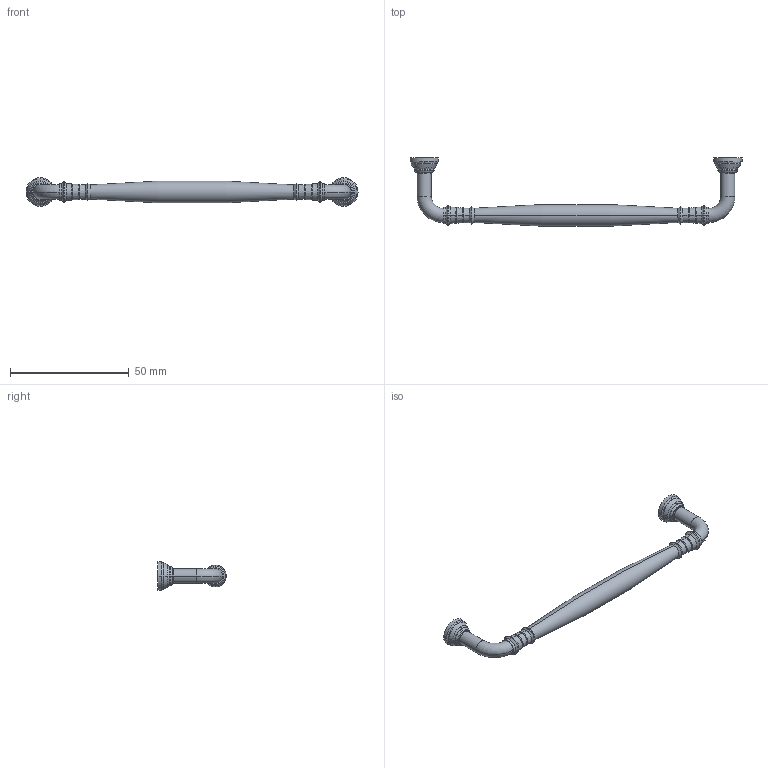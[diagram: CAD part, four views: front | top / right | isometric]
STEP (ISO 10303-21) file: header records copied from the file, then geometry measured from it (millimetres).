
FILE_DESCRIPTION( ( '' ), '1' );
FILE_NAME( 'C:/Documents and Settings/Sachin/Desktop/Sheet 10_1/stp/9112651.stp', '2013-10-22T11:55:56', ( '' ), ( '' ), ' ', ' ', ' ' );
FILE_SCHEMA( ( 'CONFIG_CONTROL_DESIGN' ) );
Length unit declared in the file: millimetre
Products named in the file (1): 1
Bounding box: 140 x 28.81 x 12 mm (x, y, z)
Volume: 7808.1 mm3; surface area: 4652.7 mm2
Topology: 1 solids, 1 shells, 123 faces, 277 edges, 163 vertices
Faces by surface type: torus 62, cone 36, cylinder 16, plane 9
Entity records: 3540 total; most frequent: DIRECTION 750, CARTESIAN_POINT 564, ORIENTED_EDGE 554, AXIS2_PLACEMENT_3D 349, EDGE_CURVE 277, CIRCLE 225, VERTEX_POINT 163, EDGE_LOOP 130
